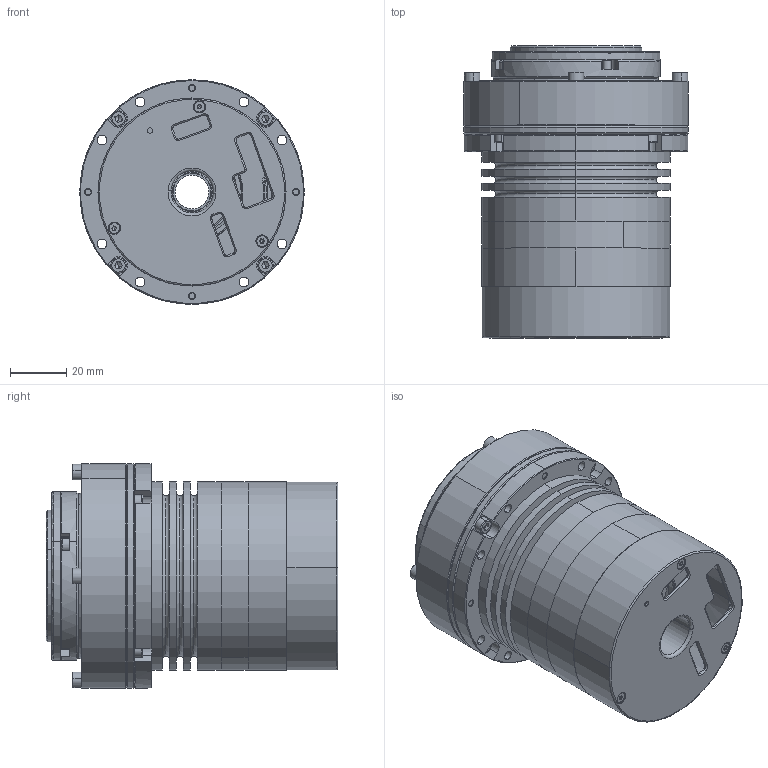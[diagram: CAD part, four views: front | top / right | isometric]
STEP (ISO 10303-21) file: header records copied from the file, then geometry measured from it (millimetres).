
FILE_DESCRIPTION (( 'STEP AP214' ), '1' );
FILE_NAME ('RH-17-100-E-B-D.STEP', '2026-07-14T08:01:47', ( '' ), ( '' ), 'SwSTEP 2.0', 'SolidWorks 2020', '' );
FILE_SCHEMA (( 'AUTOMOTIVE_DESIGN' ));
Length unit declared in the file: millimetre
Products named in the file (12): 8MT.034.002-儂釱 A1; WHS-17-XX-I_Default<偌樓馱>; 8MT.013.076-减速机密封盖 A1_Default<按加工>; 8MT.013.151-傷裔 A1; 8MT.013.006-惕掅裔 A1; 8MT.013.075-驱动器盖 A1; M2x5+3-V1; RH-17-100-E-B-D; GB╱T 2673.1-2018[内六角花形沉头螺钉M2-M4M2×20]_M2×20; GB╱T 2673.1-2018[内六角花形沉头螺钉M2-M4M3×10]_M3×10; 8MT.215.017（RH-17 细圆柱头螺钉M2.5x8）_M2.5x8  10.9级黑; GB╱T 70.1-2008[内六角圆柱头螺钉M3×25]_M3×25
Assembly tree (17 placements, depth 2):
  RH-17-100-E-B-D
    8MT.034.002-儂釱 A1
    8MT.013.151-傷裔 A1
    8MT.013.076-减速机密封盖 A1_Default<按加工>
    8MT.215.017（RH-17 细圆柱头螺钉M2.5x8）_M2.5x8  10.9级黑
    8MT.013.006-惕掅裔 A1
    8MT.013.075-驱动器盖 A1
    WHS-17-XX-I_Default<偌樓馱>
    GB╱T 2673.1-2018[内六角花形沉头螺钉M2-M4M2×20]_M2×20  x3
    GB╱T 70.1-2008[内六角圆柱头螺钉M3×25]_M3×25  x4
    GB╱T 2673.1-2018[内六角花形沉头螺钉M2-M4M3×10]_M3×10  x2
    M2x5+3-V1
Bounding box: 80 x 104 x 80 mm (x, y, z)
Volume: 187987.9 mm3; surface area: 131399.1 mm2
Topology: 34 solids, 34 shells, 1683 faces, 4191 edges, 2565 vertices
Faces by surface type: cylinder 809, cone 379, plane 367, torus 100, bspline 28
Entity records: 57137 total; most frequent: CARTESIAN_POINT 9880, DIRECTION 8556, ORIENTED_EDGE 7454, EDGE_CURVE 3727, AXIS2_PLACEMENT_3D 3518, VERTEX_POINT 2348, CIRCLE 1996, EDGE_LOOP 1885
